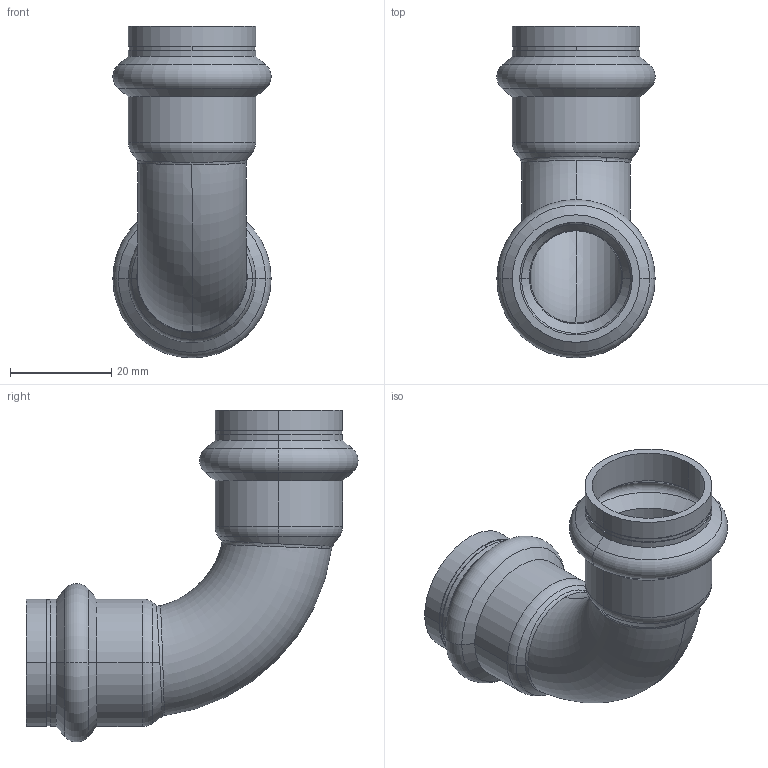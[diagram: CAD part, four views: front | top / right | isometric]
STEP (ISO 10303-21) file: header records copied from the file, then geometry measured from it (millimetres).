
FILE_DESCRIPTION (( 'STEP AP203' ), '1' );
FILE_NAME ('SP5002 Ø22.STEP', '2017-04-24T08:02:56', ( '' ), ( '' ), 'SwSTEP 2.0', 'SolidWorks 2016', '' );
FILE_SCHEMA (( 'CONFIG_CONTROL_DESIGN' ));
Length unit declared in the file: millimetre
Products named in the file (1): SP5002 ﾘ22
Bounding box: 31.32 x 65.66 x 65.66 mm (x, y, z)
Volume: 10374.7 mm3; surface area: 13841.1 mm2
Topology: 1 solids, 1 shells, 82 faces, 180 edges, 104 vertices
Faces by surface type: cone 24, cylinder 24, torus 20, bspline 8, plane 6
Entity records: 4130 total; most frequent: CARTESIAN_POINT 2272, DIRECTION 398, ORIENTED_EDGE 360, EDGE_CURVE 180, AXIS2_PLACEMENT_3D 175, VERTEX_POINT 104, CIRCLE 100, EDGE_LOOP 88
